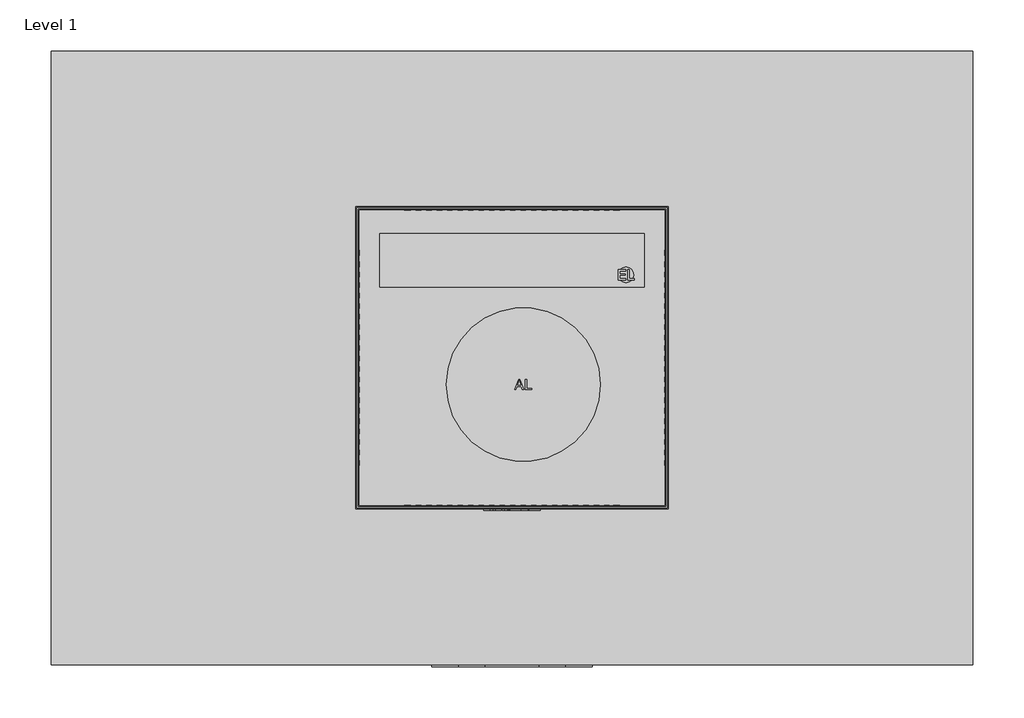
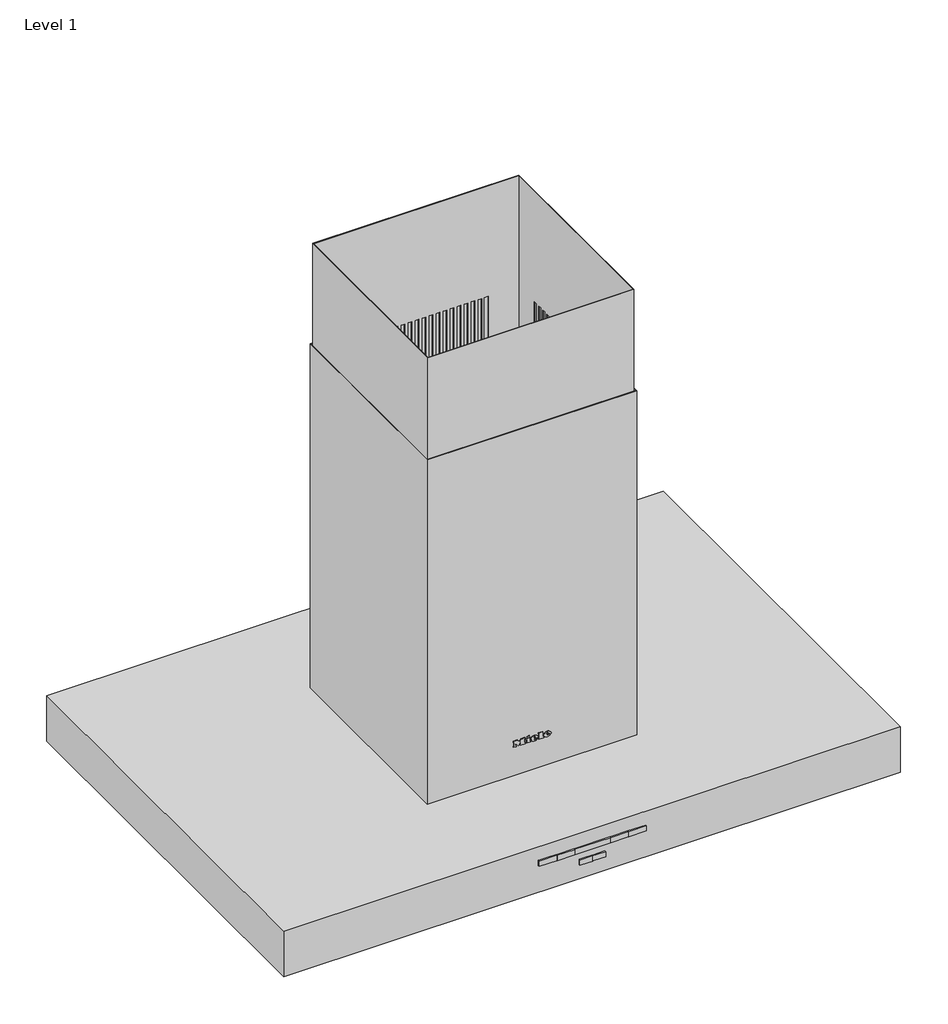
# One storey: 1 proxy.
"""IFC4 building model written with IfcOpenShell, lengths in millimetres."""

from ifc_helpers import new_model, si_unit, origin, place, context, project, spatial, transform, mapped, element, save
from components import specialty_equipment_3f4daebc, specialty_equipment_b4904531

model = new_model("IFC4")

# Units and contexts
model_context = context("Model", 3, world=origin())
ifc_project = project(units=[si_unit("LENGTHUNIT", "METRE", prefix="MILLI")], contexts=[model_context])

# Site, building, storey
site = spatial("IfcSite", under=ifc_project)
building = spatial("IfcBuilding", under=site)
storey = spatial("IfcBuildingStorey", under=building, Name="Level 1", Elevation=0.0)

# Proxy
placement = place(None, origin())
specialty_equipment_shape = specialty_equipment_3f4daebc(model_context)
specialty_equipment_2_shape = specialty_equipment_b4904531(model_context)
element("IfcBuildingElementProxy", 1, Name="10863270_RU_DA4208VD_EDST : 28420855_RU_10863270_DA4208VD_EDST", ObjectType="10863270_RU_DA4208VD_EDST : 28420855_RU_10863270_DA4208VD_EDST", at=placement, inside=storey, context=model_context, shape_type="MappedRepresentation", body=[
    mapped(specialty_equipment_shape, transform((0.0, 0.0, 0.0), x_axis=(1.0, 0.0, 0.0), y_axis=(0.0, 1.0, 0.0), z_axis=(0.0, 0.0, 1.0))),
    mapped(specialty_equipment_2_shape, transform((0.0, 0.0, 0.0), x_axis=(1.0, 0.0, 0.0), y_axis=(0.0, 1.0, 0.0), z_axis=(0.0, 0.0, 1.0))),
])

save(model, "model.ifc")
